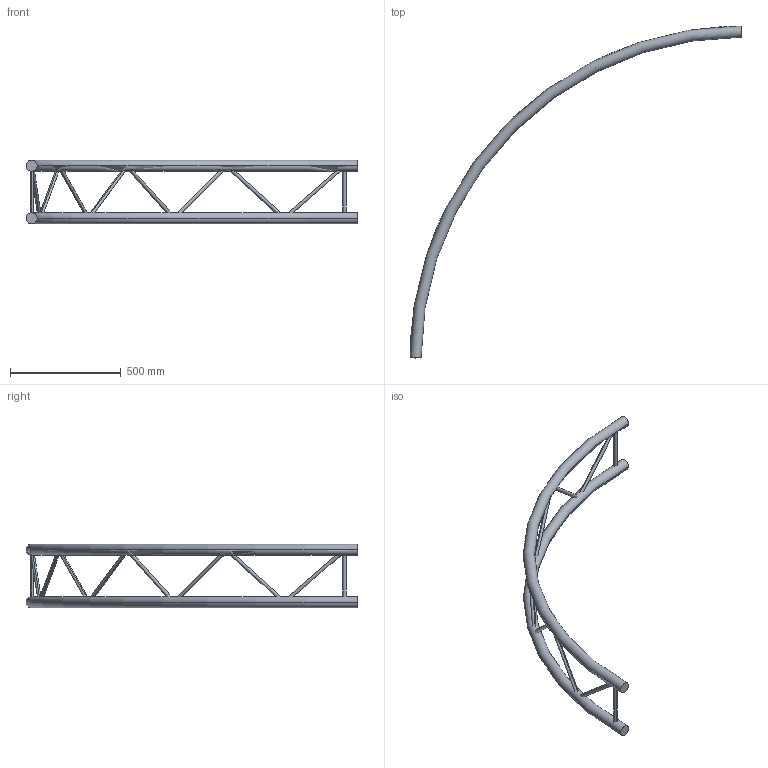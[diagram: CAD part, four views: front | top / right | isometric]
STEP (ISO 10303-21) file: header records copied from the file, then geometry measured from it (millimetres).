
FILE_DESCRIPTION (( 'STEP AP203' ), '1' );
FILE_NAME ('EXC29300V.STEP', '2009-10-26T09:29:16', ( 'CEDIA' ), ( 'CEDIA INDUSTRIE' ), 'SwSTEP 2.0', 'SolidWorks 2009', '' );
FILE_SCHEMA (( 'CONFIG_CONTROL_DESIGN' ));
Length unit declared in the file: millimetre
Products named in the file (1): EXC29300V
Bounding box: 1500 x 1500 x 287 mm (x, y, z)
Volume: 9704148.7 mm3; surface area: 885322.8 mm2
Topology: 2 solids, 2 shells, 38 faces, 88 edges, 56 vertices
Faces by surface type: cylinder 20, plane 14, torus 4
Entity records: 2072 total; most frequent: CARTESIAN_POINT 1160, ORIENTED_EDGE 176, DIRECTION 166, EDGE_CURVE 88, AXIS2_PLACEMENT_3D 71, VERTEX_POINT 56, EDGE_LOOP 48, FACE_OUTER_BOUND 38
